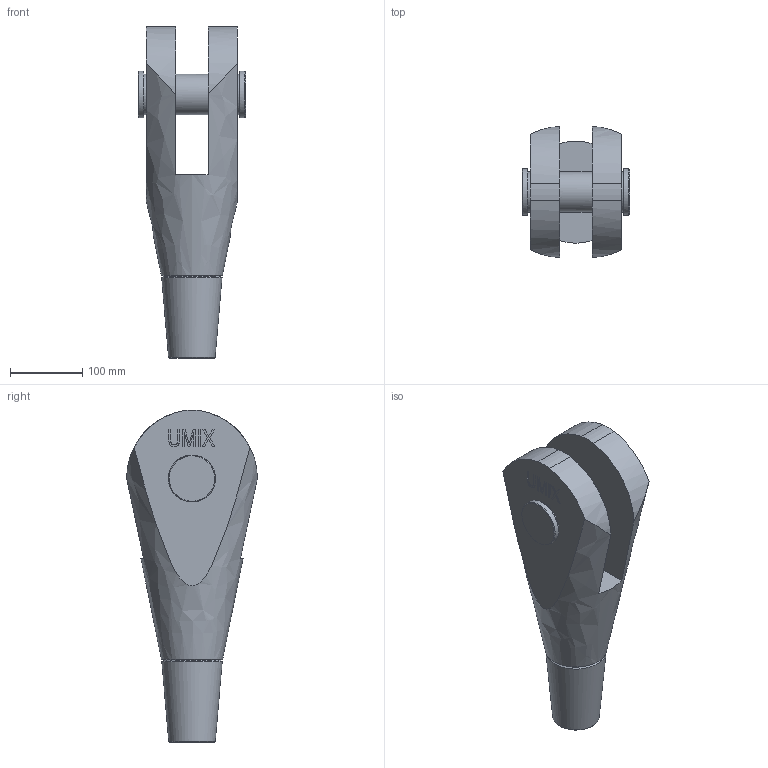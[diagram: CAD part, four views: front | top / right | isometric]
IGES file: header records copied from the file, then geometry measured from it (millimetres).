
Global section: file name: 520-056-GAK; native system: Autodesk Inventor 2016; preprocessor: unknown; author: Administrator; date: 20200625.075704; units: centimetre
Bounding box: 149.44 x 181.03 x 459.89 mm (x, y, z)
Volume: 4135075.5 mm3; surface area: 299029.3 mm2
Topology: 2 solids, 4 shells, 186 faces, 492 edges, 329 vertices
Faces by surface type: bspline 186
